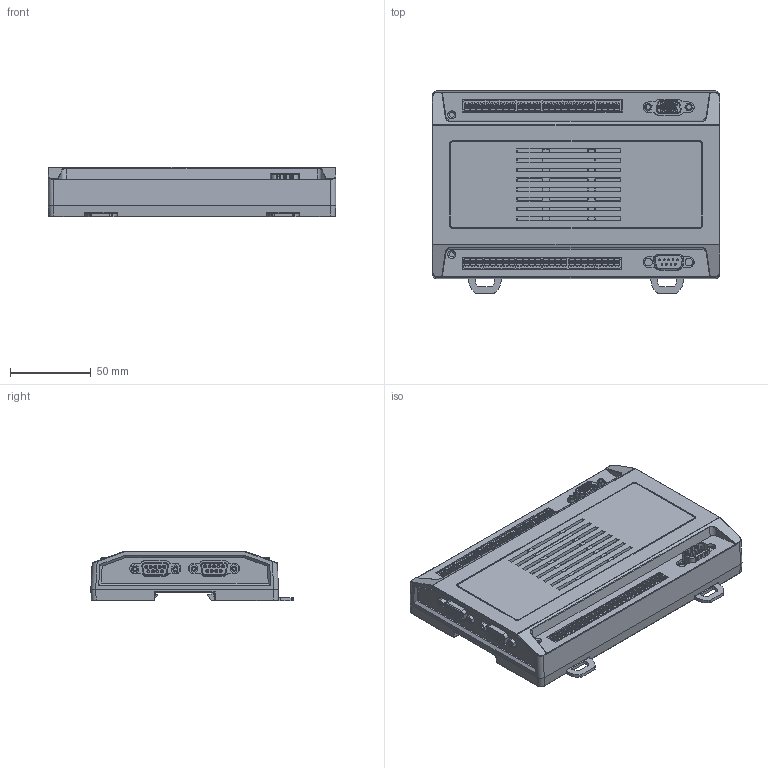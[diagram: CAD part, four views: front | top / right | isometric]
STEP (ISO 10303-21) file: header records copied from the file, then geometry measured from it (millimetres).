
FILE_DESCRIPTION (( 'STEP AP214' ), '1' );
FILE_NAME ('MC7744 -3D-2019.5.20.STEP', '2019-05-20T03:00:44', ( 'xt256.com' ), ( 'xt256.com' ), 'SwSTEP 2.0', 'SolidWorks 2016', '' );
FILE_SCHEMA (( 'AUTOMOTIVE_DESIGN' ));
Length unit declared in the file: millimetre
Products named in the file (68): 3.81-3P-180; 2.54-2X5P-M90-K_6; JI2; J2; 2.54-2X5P-M90-K_5; JI3; DB15_F_3_180; 2.54-2X5P-M90-K_4; JI4; J7; 2.54-2X5P-M90-K_3; TRC-E1156001AA (RJ45-1.02mm-90)_1; JI5; 2.00-2X5P-F180_11; 2.54-2X5P-M90-K_2; MC7744_1; JO1; 2.00-2X5P-F180_10; 2.54-2X5P-M90-K; COM1_1; DB9-M180; 2.00-2X5P-F180_9; JI6; DB9-F90; JO2; 2.00-2X5P-F180_8; 3.81-4P-180_5; D3; 3.81-5P-180_6; 2.00-2X5P-F180_7; 3.81-4P-180_4; LED_3MM_GREEN-1; 3.81-5P-180_5; 2.00-2X5P-F180_6; 3.81-4P-180_3; D59; 3.81-5P-180_4; 2.00-2X5P-F180_5; 3.81-4P-180_2; LED_3MM_GREEN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
Assembly tree (116 placements, depth 4):
  MC7744 -3D-2019.5.20
    JI6
      3.81-4P-180
      3.81-4P-180_2
      3.81-4P-180_3
      3.81-4P-180_4
      3.81-4P-180_5
    J8
      2.54-2X5P-M90-K
      2.54-2X5P-M90-K_2
      2.54-2X5P-M90-K_3
      2.54-2X5P-M90-K_4
      2.54-2X5P-M90-K_5
      2.54-2X5P-M90-K_6
      2.54-2X5P-M90-K_7
      2.54-2X5P-M90-K_8
      2.54-2X5P-M90-K_9
      2.54-2X5P-M90-K_10
      2.54-2X5P-M90-K_11
    JO2
      3.81-5P-180
      3.81-5P-180_2
      3.81-5P-180_3
      3.81-5P-180_4
      3.81-5P-180_5
      3.81-5P-180_6
    JO1
      DB9-M180
    JI5
      3.81-4P-180
      3.81-4P-180_2
      3.81-4P-180_3
      3.81-4P-180_4
      3.81-4P-180_5
    JI4
      3.81-4P-180
      3.81-4P-180_2
      3.81-4P-180_3
      3.81-4P-180_4
      3.81-4P-180_5
    JI3
      3.81-4P-180
      3.81-4P-180_2
      3.81-4P-180_3
      3.81-4P-180_4
      3.81-4P-180_5
    JI2
      3.81-4P-180
      3.81-4P-180_2
      3.81-4P-180_3
      3.81-4P-180_4
      3.81-4P-180_5
    JI1
      3.81-4P-180
      3.81-4P-180_2
      3.81-4P-180_3
      3.81-4P-180_4
      3.81-4P-180_5
    JA4
      3.81-4P-180
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Bounding box: 177.52 x 125 x 30.7 mm (x, y, z)
Volume: 20934.1 mm3; surface area: 201914.7 mm2
Topology: 97 solids, 104 shells, 8174 faces, 21285 edges, 13580 vertices
Faces by surface type: plane 5645, cylinder 1469, bspline 588, torus 210, cone 184, sphere 78
Entity records: 233249 total; most frequent: CARTESIAN_POINT 49888, ORIENTED_EDGE 27099, DIRECTION 24132, EDGE_CURVE 13582, VECTOR 9480, LINE 9480, VERTEX_POINT 8693, AXIS2_PLACEMENT_3D 7326
